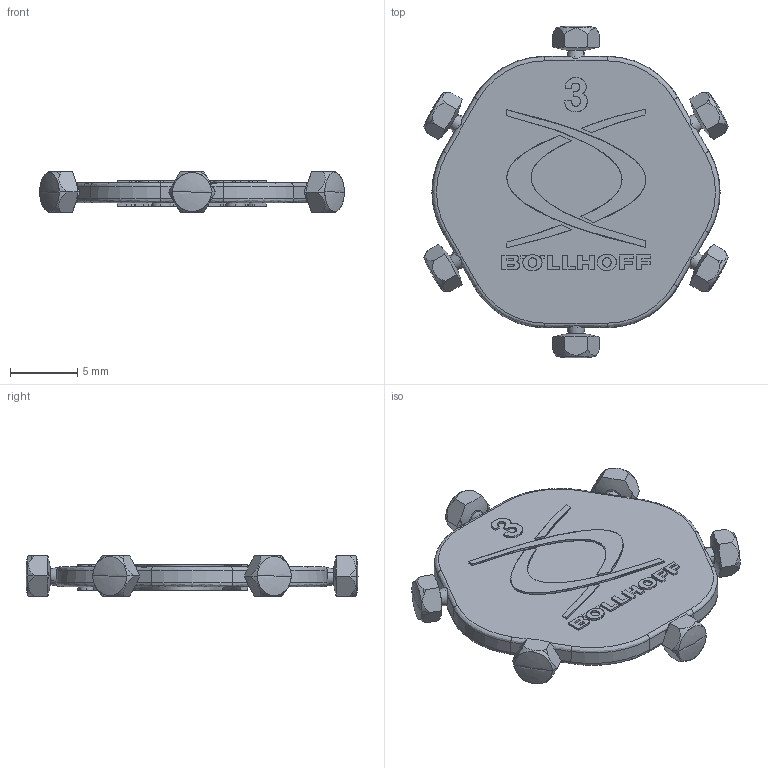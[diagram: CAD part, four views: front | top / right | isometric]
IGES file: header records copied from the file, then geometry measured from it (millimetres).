
Start section:  PTC IGES file: 2037786
Global section: file name: 2037786; native system: Creo Parametric by PTC Inc.; preprocessor: 2019292; author: s.mayer; organization: Unknown; date: 20250512.082716; units: millimetre
Bounding box: 22.57 x 24.6 x 3 mm (x, y, z)
Surface area: 998.1 mm2 (no closed solid volume)
Topology: 0 solids, 0 shells, 412 faces, 2136 edges, 2124 vertices
Faces by surface type: bspline 234, extrusion 100, revolution 78
